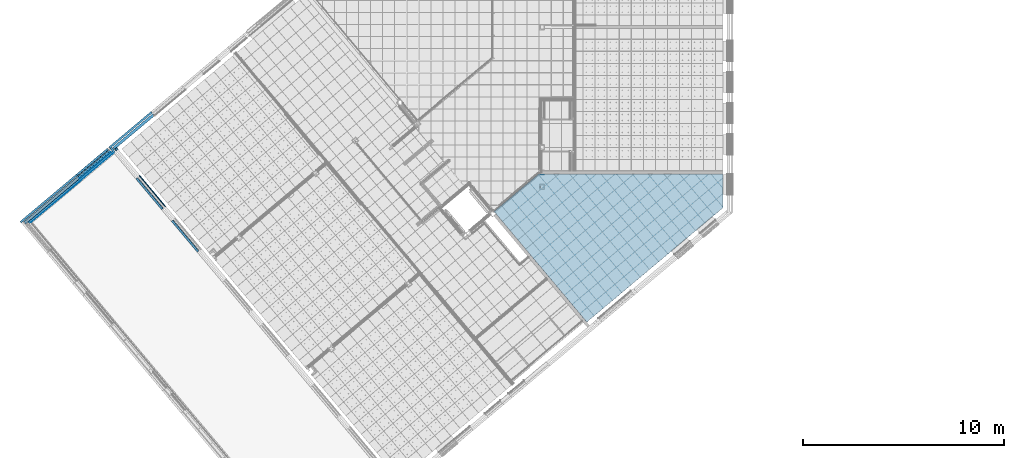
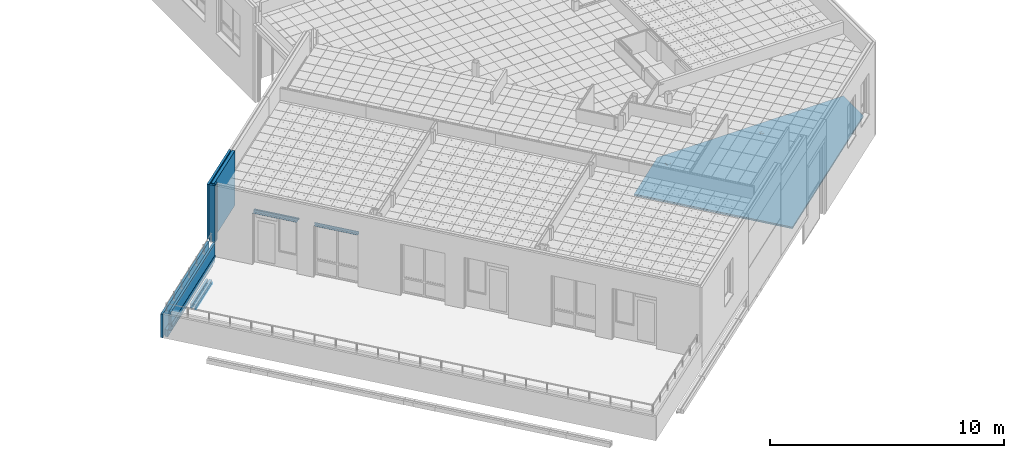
# One storey, part 54 of 321: 19 building element parts, 7 elements without a shape of their own.
"""IFC2X3 building model written with IfcOpenShell, lengths in millimetres."""

from ifc_helpers import new_model, entity, si_unit, converted_unit, derived_unit, money_unit, direction, frame, origin_with_axes, place, context, subcontext, project, spatial, faceted_brep, material, type_object, element, aggregate, save


model = new_model("IFC2X3")

# Units and contexts
model_context = context("Model", 3, precision=0.01, world=origin_with_axes(), true_north=direction((0.0, 1.0)))
plan_context = context("Plan", 3, precision=0.01, world=origin_with_axes(), true_north=direction((0.0, 1.0)))
body_context = subcontext(model_context, "Body", "Model", "MODEL_VIEW")
ifc_project = project(units=[si_unit("LENGTHUNIT", "METRE", prefix="MILLI"), si_unit("AREAUNIT", "SQUARE_METRE"), si_unit("VOLUMEUNIT", "CUBIC_METRE"), converted_unit("PLANEANGLEUNIT", "DEGREE", entity("IfcPlaneAngleMeasure", 0.0174532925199), si_unit("PLANEANGLEUNIT", "RADIAN"), dimensions=[0, 0, 0, 0, 0, 0, 0]), money_unit("EUR"), converted_unit("TIMEUNIT", "Year", entity("IfcTimeMeasure", 31556926.0), si_unit("TIMEUNIT", "SECOND"), dimensions=[0, 0, 1, 0, 0, 0, 0]), si_unit("MASSUNIT", "GRAM", prefix="KILO"), si_unit("THERMODYNAMICTEMPERATUREUNIT", "DEGREE_CELSIUS"), si_unit("LUMINOUSINTENSITYUNIT", "LUMEN"), si_unit("ENERGYUNIT", "JOULE", prefix="MEGA"), derived_unit("THERMALCONDUCTANCEUNIT", [(si_unit("POWERUNIT", "WATT"), 1), (si_unit("LENGTHUNIT", "METRE"), -1), (si_unit("THERMODYNAMICTEMPERATUREUNIT", "KELVIN"), -1)]), derived_unit("SPECIFICHEATCAPACITYUNIT", [(si_unit("ENERGYUNIT", "JOULE"), 1), (si_unit("MASSUNIT", "GRAM", prefix="KILO"), -1), (si_unit("THERMODYNAMICTEMPERATUREUNIT", "KELVIN"), -1)]), derived_unit("MASSDENSITYUNIT", [(si_unit("MASSUNIT", "GRAM", prefix="KILO"), 1), (si_unit("VOLUMEUNIT", "CUBIC_METRE"), -1)])], contexts=[model_context, plan_context])

# Site, building, storey
site_placement = place(None, origin_with_axes())
site = spatial("IfcSite", under=ifc_project, at=site_placement, Name="Fortuinstraat Woensdrecht", CompositionType="ELEMENT")
building_placement = place(site_placement, origin_with_axes())
building = spatial("IfcBuilding", under=site, at=building_placement, Name="IKC Fortuna", CompositionType="ELEMENT")
storey_placement = place(building_placement, frame((0.0, 0.0, 4000.0), z_axis=(0.0, 0.0, 1.0), x_axis=(1.0, 0.0, 0.0)))
storey = spatial("IfcBuildingStorey", under=building, at=storey_placement, Name="01 eerste verdieping", CompositionType="ELEMENT", Elevation=4000.0)

# Wall, building element parts
wall_type = type_object("IfcWallType", Name="21 MW hoofd 280", PredefinedType="NOTDEFINED")
wall_1_placement = place(storey_placement, frame((4029.43369291, 3746.61036659, 2447.5), z_axis=(0.0, 0.0, 1.0), x_axis=(0.766044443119, 0.642787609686, 0.0)))
wall_1 = element("IfcWall", 1, at=wall_1_placement, inside=storey, type_object=wall_type, Name="21_Wand_Vezel Cement Plaat")
ifc_material_1 = material(Name="Steen - Baksteen Hoofd")
building_element_part_1_placement = place(wall_1_placement, origin_with_axes())
building_element_part_1 = element("IfcBuildingElementPart", 2, at=building_element_part_1_placement, material=ifc_material_1, Name="Steen - Baksteen Hoofd", context=body_context, shape_type="Brep", body=[
    faceted_brep([(2745.38052311, -100.0, 2842.5), (2745.38052311, 0.0, 2842.5), (0.0, 0.0, 2842.5), (0.0, -100.0, 2842.5), (2745.38052311, -100.0, 0.0), (2745.38052311, 0.0, 0.0), (0.0, 0.0, 0.0), (0.0, -100.0, 0.0)], [[[0, 1, 2, 3]], [[0, 4, 5, 1]], [[1, 5, 6, 2]], [[3, 2, 6, 7]], [[4, 0, 3, 7]], [[5, 4, 7, 6]]]),
])
ifc_material_2 = material(Name="ALG - ISOLATIE")
building_element_part_2_placement = place(wall_1_placement, origin_with_axes())
building_element_part_2 = element("IfcBuildingElementPart", 3, at=building_element_part_2_placement, material=ifc_material_2, Name="ALG - ISOLATIE", context=body_context, shape_type="Brep", body=[
    faceted_brep([(2745.38052311, -280.0, 2842.5), (2745.38052311, -140.0, 2842.5), (140.0, -140.0, 2842.5), (140.0, -280.0, 2842.5), (2745.38052311, -280.0, 0.0), (2745.38052311, -140.0, 0.0), (140.0, -140.0, 0.0), (140.0, -280.0, 0.0)], [[[0, 1, 2, 3]], [[0, 4, 5, 1]], [[1, 5, 6, 2]], [[3, 2, 6, 7]], [[4, 0, 3, 7]], [[5, 4, 7, 6]]]),
])
aggregate(wall_1, [building_element_part_1, building_element_part_2])

wall_2_placement = place(storey_placement, frame((4029.43369291, 3746.61036659, 2329.99999925), z_axis=(0.0, 0.0, 1.0), x_axis=(0.642787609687, -0.766044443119, 0.0)))
wall_2 = element("IfcWall", 4, at=wall_2_placement, inside=storey, type_object=wall_type, Name="21_Wand_Vezel Cement Plaat")
building_element_part_3_placement = place(wall_2_placement, origin_with_axes())
building_element_part_3 = element("IfcBuildingElementPart", 5, at=building_element_part_3_placement, material=ifc_material_2, Name="ALG - ISOLATIE", context=body_context, shape_type="Brep", body=[
    faceted_brep([(280.0, 280.0, 0.0), (280.0, 280.0, 2960.00000075), (380.000004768, 280.0, 2960.00000075), (380.000004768, 280.0, 0.0), (280.0, 140.0, 0.0), (280.0, 140.0, 2960.00000075), (380.000004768, 140.0, 2960.00000075), (380.000004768, 140.0, 0.0)], [[[0, 1, 2, 3]], [[1, 0, 4, 5]], [[1, 5, 6, 2]], [[6, 7, 3, 2]], [[4, 0, 3, 7]], [[4, 7, 6, 5]]]),
])
building_element_part_4_placement = place(wall_2_placement, origin_with_axes())
building_element_part_4 = element("IfcBuildingElementPart", 6, at=building_element_part_4_placement, material=ifc_material_1, Name="Steen - Baksteen Hoofd", context=body_context, shape_type="Brep", body=[
    faceted_brep([(100.0, 100.000001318, 0.0), (100.0, 100.0, 2960.00000075), (380.000004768, 100.0, 2960.00000075), (380.000004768, 100.0, 0.0), (100.0, 0.0, 0.0), (100.0, 0.0, 117.500000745), (100.0, 0.0, 2960.00000075), (380.000004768, 0.0, 2960.00000075), (380.000004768, 0.0, 0.0)], [[[0, 1, 2, 3]], [[1, 0, 4, 5, 6]], [[1, 6, 7, 2]], [[7, 8, 3, 2]], [[4, 0, 3, 8]], [[5, 4, 8, 7, 6]]]),
])
aggregate(wall_2, [building_element_part_3, building_element_part_4])

# Covering, building element parts
covering_type_1 = type_object("IfcCoveringType", Name="41 Latei MW rollaag zw 280 x 227", PredefinedType="NOTDEFINED")
covering_1_placement = place(storey_placement, frame((2499.53142709, 2280.1129191, 237.5), z_axis=(0.0, 0.0, 1.0), x_axis=(0.766044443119, 0.642787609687, 0.0)))
covering_1 = element("IfcCovering", 7, at=covering_1_placement, inside=storey, type_object=covering_type_1, Name="41_Afwerking_Latei + rollaag", PredefinedType="NOTDEFINED")
ifc_material_3 = material(Name="Metaal - Staal C")
building_element_part_5_placement = place(covering_1_placement, origin_with_axes())
building_element_part_5 = element("IfcBuildingElementPart", 8, at=building_element_part_5_placement, material=ifc_material_3, Name="Metaal - Staal C", context=body_context, shape_type="Brep", body=[
    faceted_brep([(2010.0, 36.6213203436, 2.5), (2010.0, 32.0, 2.5), (2010.0, 32.0, 0.0), (2010.0, 33.1715728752, -2.82842712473), (2010.0, 36.0, -4.0), (2010.0, 115.215535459, -4.0), (2010.0, 135.215535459, -8.0), (2010.0, 136.0, -4.07767729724), (2010.0, 115.609685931, 0.0), (2010.0, 40.0, 0.0), (2010.0, 37.1715728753, 1.17157287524), (0.0, 32.0, 2.5), (0.0, 36.6213203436, 2.5), (0.0, 32.0, 0.0), (0.0, 33.1715728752, -2.82842712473), (0.0, 36.0, -4.0), (0.0, 115.215535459, -4.0), (0.0, 135.215535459, -8.0), (0.0, 136.0, -4.07767729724), (0.0, 115.609685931, 0.0), (0.0, 40.0, 0.0), (0.0, 37.1715728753, 1.17157287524)], [[[0, 1, 2, 3, 4, 5, 6, 7, 8, 9, 10]], [[11, 1, 0, 12]], [[1, 11, 13, 2]], [[14, 3, 2, 13]], [[15, 4, 3, 14]], [[16, 5, 4, 15]], [[17, 6, 5, 16]], [[18, 7, 6, 17]], [[19, 8, 7, 18]], [[20, 9, 8, 19]], [[21, 10, 9, 20]], [[12, 0, 10, 21]], [[11, 12, 21, 20, 19, 18, 17, 16, 15, 14, 13]]]),
    faceted_brep([(2010.0, 27.4409013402, 109.55909866), (2010.0, 27.4409013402, 115.160983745), (2010.0, 20.8284271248, 121.828427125), (2010.0, 18.0000000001, 119.0), (0.0, 27.4409013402, 115.160983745), (0.0, 27.4409013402, 109.55909866), (0.0, 20.8284271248, 121.828427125), (0.0, 18.0000000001, 119.0)], [[[0, 1, 2, 3]], [[4, 1, 0, 5]], [[1, 4, 6, 2]], [[7, 3, 2, 6]], [[5, 0, 3, 7]], [[4, 5, 7, 6]]]),
])
ifc_material_4 = material(Name="Steen - Baksteen Accent Rollaag")
building_element_part_6_placement = place(covering_1_placement, origin_with_axes())
building_element_part_6 = element("IfcBuildingElementPart", 9, at=building_element_part_6_placement, material=ifc_material_4, Name="Steen - Baksteen Accent Rollaag", context=body_context, shape_type="Brep", body=[
    faceted_brep([(0.0, 40.0, 18.3217893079), (2010.0, 40.0, 18.3217893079), (2010.0, 40.0, 210.0), (0.0, 40.0, 210.0), (2010.0, 40.955619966, 16.0147186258), (0.0, 40.9556199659, 16.0147186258), (2010.0, 127.44090134, 2.49999999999), (2010.0, 40.0, 2.5), (2010.0, 40.0, 0.0), (2010.0, 115.609685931, 0.0), (2010.0, 140.0, 0.0), (2010.0, 140.0, 210.0), (2010.0, 49.4409013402, 12.5), (2010.0, 121.44090134, 12.5), (2010.0, 125.683542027, 10.7426406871), (2010.0, 127.44090134, 6.49999999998), (0.0, 140.0, 210.0), (0.0, 140.0, 0.0), (0.0, 115.609685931, 0.0), (0.0, 40.0, 0.0), (0.0, 40.0, 2.5), (0.0, 127.44090134, 2.49999999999), (0.0, 127.44090134, 6.49999999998), (0.0, 125.683542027, 10.7426406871), (0.0, 121.44090134, 12.5), (0.0, 49.4409013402, 12.5)], [[[0, 1, 2, 3]], [[4, 1, 0, 5]], [[6, 7, 8, 9, 10, 11, 2, 1, 4, 12, 13, 14, 15]], [[3, 2, 11, 16]], [[5, 0, 3, 16, 17, 18, 19, 20, 21, 22, 23, 24, 25]], [[12, 4, 5, 25]], [[20, 7, 6, 21]], [[7, 20, 19, 8]], [[18, 9, 8, 19]], [[17, 10, 9, 18]], [[16, 11, 10, 17]], [[13, 12, 25, 24]], [[14, 13, 24, 23]], [[15, 14, 23, 22]], [[6, 15, 22, 21]]]),
])
building_element_part_7_placement = place(covering_1_placement, origin_with_axes())
building_element_part_7 = element("IfcBuildingElementPart", 10, at=building_element_part_7_placement, material=ifc_material_2, Name="ALG - ISOLATIE", context=body_context, shape_type="Brep", body=[
    faceted_brep([(0.0, -140.0, 53.0), (2010.0, -140.0, 53.0), (2010.0, -140.0, 210.0), (0.0, -140.0, 210.0), (0.0, -83.9999988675, 53.0000013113), (2010.0, -83.9999988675, 53.0000013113), (2010.0, 0.0, 53.0), (2010.0, 0.0, 210.0), (0.0, 0.0, 210.0), (0.0, 0.0, 53.0)], [[[0, 1, 2, 3]], [[4, 5, 1, 0]], [[2, 1, 5, 6, 7]], [[3, 2, 7, 8]], [[4, 0, 3, 8, 9]], [[9, 6, 5, 4]], [[8, 7, 6, 9]]]),
])
ifc_material_5 = material(Name="Hout AFW")
building_element_part_8_placement = place(covering_1_placement, origin_with_axes())
building_element_part_8 = element("IfcBuildingElementPart", 11, at=building_element_part_8_placement, material=ifc_material_5, Name="Hout AFW", context=body_context, shape_type="Brep", body=[
    faceted_brep([(0.0, -127.999998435, 53.0000013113), (2010.0, -127.999998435, 53.0000013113), (2010.0, -83.9999988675, 53.0000013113), (0.0, -83.9999988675, 53.0000013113), (0.0, -127.999998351, -1.28576260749e-07), (2010.0, -127.999998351, -1.28576260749e-07), (2010.0, -127.999998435, -17.0), (2010.0, -83.9999988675, -17.0), (0.0, -83.9999988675, -17.0), (0.0, -127.999998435, -17.0)], [[[0, 1, 2, 3]], [[4, 5, 1, 0]], [[2, 1, 5, 6, 7]], [[3, 2, 7, 8]], [[4, 0, 3, 8, 9]], [[9, 6, 5, 4]], [[8, 7, 6, 9]]]),
])
ifc_material_6 = material(Name="Isolatie - PUR gespoten")
building_element_part_9_placement = place(covering_1_placement, origin_with_axes())
building_element_part_9 = element("IfcBuildingElementPart", 12, at=building_element_part_9_placement, material=ifc_material_6, Name="Isolatie - PUR gespoten", context=body_context, shape_type="Brep", body=[
    faceted_brep([(0.0, -139.999999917, 53.0000002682), (2010.0, -139.999999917, 53.0000002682), (2010.0, -127.999998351, 53.0000013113), (0.0, -127.999998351, 53.0000013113), (0.0, -139.999999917, -1.28576260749e-07), (2010.0, -139.999999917, -1.28576260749e-07), (2010.0, -127.999998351, -1.28576260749e-07), (0.0, -127.999998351, -1.28576260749e-07)], [[[0, 1, 2, 3]], [[4, 5, 1, 0]], [[2, 1, 5, 6]], [[3, 2, 6, 7]], [[4, 0, 3, 7]], [[7, 6, 5, 4]]]),
])
aggregate(covering_1, [building_element_part_5, building_element_part_6, building_element_part_7, building_element_part_8, building_element_part_9])

covering_type_2 = type_object("IfcCoveringType", Name="43 Vloerafwerking 90", PredefinedType="FLOORING")
covering_2_placement = place(storey_placement, frame((25448.8419239, 2407.43245324, 0.0), z_axis=(0.0, 0.0, 1.0), x_axis=(1.0, 0.0, 0.0)))
covering_2 = element("IfcCovering", 13, at=covering_2_placement, inside=storey, type_object=covering_type_2, Name="43_Vloerafwerking_Vloerafwerking", PredefinedType="FLOORING")
ifc_material_7 = material(Name="Cement")
building_element_part_10_placement = place(covering_2_placement, origin_with_axes())
building_element_part_10 = element("IfcBuildingElementPart", 14, at=building_element_part_10_placement, material=ifc_material_7, Name="Cement", context=body_context, shape_type="Brep", body=[
    faceted_brep([(4831.5930526, -588.135824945, -70.0), (4833.00726617, -588.721611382, -70.0), (4833.5930526, -590.135824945, -70.0), (4833.5930526, -720.135824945, -70.0), (4833.00726616, -721.550038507, -70.0), (4831.5930526, -722.135824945, -70.0), (4701.5930526, -722.135824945, -70.0), (4700.17883904, -721.550038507, -70.0), (4699.5930526, -720.135824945, -70.0), (4699.5930526, -590.135824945, -70.0), (4700.17883904, -588.721611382, -70.0), (4701.5930526, -588.135824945, -70.0), (4831.5930526, -588.135824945, 0.0), (4833.00726617, -588.721611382, 0.0), (4833.5930526, -590.135824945, 0.0), (4833.5930526, -720.135824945, 0.0), (4833.00726616, -721.550038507, 0.0), (4831.5930526, -722.135824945, 0.0), (4701.5930526, -722.135824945, 0.0), (4700.17883904, -721.550038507, 0.0), (4699.5930526, -720.135824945, 0.0), (4699.5930526, -590.135824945, 0.0), (4700.17883904, -588.721611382, 0.0), (4701.5930526, -588.135824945, 0.0)], [[[0, 1, 2, 3, 4, 5, 6, 7, 8, 9, 10, 11]], [[12, 13, 1, 0]], [[13, 14, 2, 1]], [[14, 15, 3, 2]], [[15, 16, 4, 3]], [[16, 17, 5, 4]], [[17, 18, 6, 5]], [[18, 19, 7, 6]], [[19, 20, 8, 7]], [[20, 21, 9, 8]], [[21, 22, 10, 9]], [[22, 23, 11, 10]], [[23, 12, 0, 11]], [[16, 15, 14, 13, 12, 23, 22, 21, 20, 19, 18, 17]]]),
    faceted_brep([(271.593052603, -0.482173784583, -70.0), (9170.58513315, -0.482173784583, -70.0), (9170.58513315, -1703.89781269, -70.0), (2393.20947264, -7390.79125922, -70.0), (-2234.86130751, -1875.27120575, -70.0), (0.0, 0.0, -70.0), (49.1008584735, 0.0, -70.0), (49.1008839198, -0.48739445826, -70.0), (4838.66412041, -727.206892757, -70.0), (4841.5930526, -720.135824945, -70.0), (4841.5930526, -590.135824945, -70.0), (4838.66412041, -583.064757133, -70.0), (4831.5930526, -580.135824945, -70.0), (4701.5930526, -580.135824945, -70.0), (4694.52198479, -583.064757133, -70.0), (4691.5930526, -590.135824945, -70.0), (4691.5930526, -720.135824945, -70.0), (4694.52198479, -727.206892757, -70.0), (4701.5930526, -730.135824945, -70.0), (4831.5930526, -730.135824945, -70.0), (260.593052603, -765.135824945, -70.0), (271.593052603, -765.135824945, -70.0), (271.593052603, -545.135824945, -70.0), (260.593052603, -545.135824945, -70.0), (260.593052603, -633.635824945, -70.0), (258.181509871, -642.635824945, -70.0), (251.593052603, -649.224282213, -70.0), (242.593052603, -651.635824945, -70.0), (90.5930526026, -651.635824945, -70.0), (81.5930526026, -649.224282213, -70.0), (75.0045953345, -642.635824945, -70.0), (72.5930526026, -633.635824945, -70.0), (72.5930526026, -545.135824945, -70.0), (61.5930526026, -545.135824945, -70.0), (61.5930526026, -765.135824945, -70.0), (72.5930526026, -765.135824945, -70.0), (72.5930526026, -676.635824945, -70.0), (75.0045953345, -667.635824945, -70.0), (81.5930526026, -661.047367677, -70.0), (90.5930526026, -658.635824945, -70.0), (242.593052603, -658.635824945, -70.0), (251.593052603, -661.047367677, -70.0), (258.181509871, -667.635824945, -70.0), (260.593052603, -676.635824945, -70.0), (271.593052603, -0.482173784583, 0.0), (9170.58513315, -0.482173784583, 0.0), (9170.58513315, -1703.89781269, 0.0), (2393.20947264, -7390.79125922, 0.0), (-2234.86130751, -1875.27120575, 0.0), (0.0, 0.0, 0.0), (49.1008584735, 0.0, 0.0), (49.1008839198, -0.48739445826, 0.0), (4838.66412041, -727.206892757, 0.0), (4841.5930526, -720.135824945, 0.0), (4841.5930526, -590.135824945, 0.0), (4838.66412041, -583.064757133, 0.0), (4831.5930526, -580.135824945, 0.0), (4701.5930526, -580.135824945, 0.0), (4694.52198479, -583.064757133, 0.0), (4691.5930526, -590.135824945, 0.0), (4691.5930526, -720.135824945, 0.0), (4694.52198479, -727.206892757, 0.0), (4701.5930526, -730.135824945, 0.0), (4831.5930526, -730.135824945, 0.0), (260.593052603, -765.135824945, 0.0), (271.593052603, -765.135824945, 0.0), (271.593052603, -545.135824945, 0.0), (260.593052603, -545.135824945, 0.0), (260.593052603, -633.635824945, 0.0), (258.181509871, -642.635824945, 0.0), (251.593052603, -649.224282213, 0.0), (242.593052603, -651.635824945, 0.0), (90.5930526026, -651.635824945, 0.0), (81.5930526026, -649.224282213, 0.0), (75.0045953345, -642.635824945, 0.0), (72.5930526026, -633.635824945, 0.0), (72.5930526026, -545.135824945, 0.0), (61.5930526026, -545.135824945, 0.0), (61.5930526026, -765.135824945, 0.0), (72.5930526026, -765.135824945, 0.0), (72.5930526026, -676.635824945, 0.0), (75.0045953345, -667.635824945, 0.0), (81.5930526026, -661.047367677, 0.0), (90.5930526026, -658.635824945, 0.0), (242.593052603, -658.635824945, 0.0), (251.593052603, -661.047367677, 0.0), (258.181509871, -667.635824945, 0.0), (260.593052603, -676.635824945, 0.0)], [[[0, 1, 2, 3, 4, 5, 6, 7], [8, 9, 10, 11, 12, 13, 14, 15, 16, 17, 18, 19], [20, 21, 22, 23, 24, 25, 26, 27, 28, 29, 30, 31, 32, 33, 34, 35, 36, 37, 38, 39, 40, 41, 42, 43]], [[0, 44, 45, 1]], [[2, 1, 45, 46]], [[3, 2, 46, 47]], [[4, 3, 47, 48]], [[5, 4, 48, 49]], [[5, 49, 50, 6]], [[51, 7, 6, 50]], [[51, 44, 0, 7]], [[52, 53, 9, 8]], [[53, 54, 10, 9]], [[54, 55, 11, 10]], [[55, 56, 12, 11]], [[56, 57, 13, 12]], [[57, 58, 14, 13]], [[58, 59, 15, 14]], [[59, 60, 16, 15]], [[60, 61, 17, 16]], [[61, 62, 18, 17]], [[62, 63, 19, 18]], [[63, 52, 8, 19]], [[64, 65, 21, 20]], [[65, 66, 22, 21]], [[66, 67, 23, 22]], [[67, 68, 24, 23]], [[68, 69, 25, 24]], [[69, 70, 26, 25]], [[70, 71, 27, 26]], [[71, 72, 28, 27]], [[72, 73, 29, 28]], [[73, 74, 30, 29]], [[74, 75, 31, 30]], [[75, 76, 32, 31]], [[76, 77, 33, 32]], [[77, 78, 34, 33]], [[78, 79, 35, 34]], [[79, 80, 36, 35]], [[80, 81, 37, 36]], [[81, 82, 38, 37]], [[82, 83, 39, 38]], [[83, 84, 40, 39]], [[84, 85, 41, 40]], [[85, 86, 42, 41]], [[86, 87, 43, 42]], [[87, 64, 20, 43]], [[45, 44, 51, 50, 49, 48, 47, 46], [56, 55, 54, 53, 52, 63, 62, 61, 60, 59, 58, 57], [68, 67, 66, 65, 64, 87, 86, 85, 84, 83, 82, 81, 80, 79, 78, 77, 76, 75, 74, 73, 72, 71, 70, 69]]]),
])
ifc_material_8 = material(Name="Isolatie - XPS zwevende dekvloer")
building_element_part_11_placement = place(covering_2_placement, origin_with_axes())
building_element_part_11 = element("IfcBuildingElementPart", 15, at=building_element_part_11_placement, material=ifc_material_8, Name="Isolatie - XPS zwevende dekvloer", context=body_context, shape_type="Brep", body=[
    faceted_brep([(4831.5930526, -588.135824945, -90.0), (4833.00726617, -588.721611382, -90.0), (4833.5930526, -590.135824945, -90.0), (4833.5930526, -720.135824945, -90.0), (4833.00726616, -721.550038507, -90.0), (4831.5930526, -722.135824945, -90.0), (4701.5930526, -722.135824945, -90.0), (4700.17883904, -721.550038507, -90.0), (4699.5930526, -720.135824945, -90.0), (4699.5930526, -590.135824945, -90.0), (4700.17883904, -588.721611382, -90.0), (4701.5930526, -588.135824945, -90.0), (4831.5930526, -588.135824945, -70.0), (4833.00726617, -588.721611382, -70.0), (4833.5930526, -590.135824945, -70.0), (4833.5930526, -720.135824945, -70.0), (4833.00726616, -721.550038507, -70.0), (4831.5930526, -722.135824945, -70.0), (4701.5930526, -722.135824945, -70.0), (4700.17883904, -721.550038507, -70.0), (4699.5930526, -720.135824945, -70.0), (4699.5930526, -590.135824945, -70.0), (4700.17883904, -588.721611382, -70.0), (4701.5930526, -588.135824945, -70.0)], [[[0, 1, 2, 3, 4, 5, 6, 7, 8, 9, 10, 11]], [[12, 13, 1, 0]], [[13, 14, 2, 1]], [[14, 15, 3, 2]], [[15, 16, 4, 3]], [[16, 17, 5, 4]], [[17, 18, 6, 5]], [[18, 19, 7, 6]], [[19, 20, 8, 7]], [[20, 21, 9, 8]], [[21, 22, 10, 9]], [[22, 23, 11, 10]], [[23, 12, 0, 11]], [[16, 15, 14, 13, 12, 23, 22, 21, 20, 19, 18, 17]]]),
    faceted_brep([(271.593052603, -0.482173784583, -90.0), (9170.58513315, -0.482173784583, -90.0), (9170.58513315, -1703.89781269, -90.0), (2393.20947264, -7390.79125922, -90.0), (-2234.86130751, -1875.27120575, -90.0), (0.0, 0.0, -90.0), (49.1008584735, 0.0, -90.0), (49.1008839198, -0.48739445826, -90.0), (4838.66412041, -727.206892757, -90.0), (4841.5930526, -720.135824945, -90.0), (4841.5930526, -590.135824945, -90.0), (4838.66412041, -583.064757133, -90.0), (4831.5930526, -580.135824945, -90.0), (4701.5930526, -580.135824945, -90.0), (4694.52198479, -583.064757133, -90.0), (4691.5930526, -590.135824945, -90.0), (4691.5930526, -720.135824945, -90.0), (4694.52198479, -727.206892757, -90.0), (4701.5930526, -730.135824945, -90.0), (4831.5930526, -730.135824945, -90.0), (260.593052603, -765.135824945, -90.0), (271.593052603, -765.135824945, -90.0), (271.593052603, -545.135824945, -90.0), (260.593052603, -545.135824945, -90.0), (260.593052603, -633.635824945, -90.0), (258.181509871, -642.635824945, -90.0), (251.593052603, -649.224282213, -90.0), (242.593052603, -651.635824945, -90.0), (90.5930526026, -651.635824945, -90.0), (81.5930526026, -649.224282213, -90.0), (75.0045953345, -642.635824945, -90.0), (72.5930526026, -633.635824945, -90.0), (72.5930526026, -545.135824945, -90.0), (61.5930526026, -545.135824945, -90.0), (61.5930526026, -765.135824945, -90.0), (72.5930526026, -765.135824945, -90.0), (72.5930526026, -676.635824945, -90.0), (75.0045953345, -667.635824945, -90.0), (81.5930526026, -661.047367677, -90.0), (90.5930526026, -658.635824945, -90.0), (242.593052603, -658.635824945, -90.0), (251.593052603, -661.047367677, -90.0), (258.181509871, -667.635824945, -90.0), (260.593052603, -676.635824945, -90.0), (271.593052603, -0.482173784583, -70.0), (9170.58513315, -0.482173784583, -70.0), (9170.58513315, -1703.89781269, -70.0), (2393.20947264, -7390.79125922, -70.0), (-2234.86130751, -1875.27120575, -70.0), (0.0, 0.0, -70.0), (49.1008584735, 0.0, -70.0), (49.1008839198, -0.48739445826, -70.0), (4838.66412041, -727.206892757, -70.0), (4841.5930526, -720.135824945, -70.0), (4841.5930526, -590.135824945, -70.0), (4838.66412041, -583.064757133, -70.0), (4831.5930526, -580.135824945, -70.0), (4701.5930526, -580.135824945, -70.0), (4694.52198479, -583.064757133, -70.0), (4691.5930526, -590.135824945, -70.0), (4691.5930526, -720.135824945, -70.0), (4694.52198479, -727.206892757, -70.0), (4701.5930526, -730.135824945, -70.0), (4831.5930526, -730.135824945, -70.0), (260.593052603, -765.135824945, -70.0), (271.593052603, -765.135824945, -70.0), (271.593052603, -545.135824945, -70.0), (260.593052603, -545.135824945, -70.0), (260.593052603, -633.635824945, -70.0), (258.181509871, -642.635824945, -70.0), (251.593052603, -649.224282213, -70.0), (242.593052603, -651.635824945, -70.0), (90.5930526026, -651.635824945, -70.0), (81.5930526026, -649.224282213, -70.0), (75.0045953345, -642.635824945, -70.0), (72.5930526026, -633.635824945, -70.0), (72.5930526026, -545.135824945, -70.0), (61.5930526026, -545.135824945, -70.0), (61.5930526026, -765.135824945, -70.0), (72.5930526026, -765.135824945, -70.0), (72.5930526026, -676.635824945, -70.0), (75.0045953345, -667.635824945, -70.0), (81.5930526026, -661.047367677, -70.0), (90.5930526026, -658.635824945, -70.0), (242.593052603, -658.635824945, -70.0), (251.593052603, -661.047367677, -70.0), (258.181509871, -667.635824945, -70.0), (260.593052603, -676.635824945, -70.0)], [[[0, 1, 2, 3, 4, 5, 6, 7], [8, 9, 10, 11, 12, 13, 14, 15, 16, 17, 18, 19], [20, 21, 22, 23, 24, 25, 26, 27, 28, 29, 30, 31, 32, 33, 34, 35, 36, 37, 38, 39, 40, 41, 42, 43]], [[0, 44, 45, 1]], [[2, 1, 45, 46]], [[47, 3, 2, 46]], [[48, 4, 3, 47]], [[49, 5, 4, 48]], [[5, 49, 50, 6]], [[51, 7, 6, 50]], [[51, 44, 0, 7]], [[52, 53, 9, 8]], [[53, 54, 10, 9]], [[54, 55, 11, 10]], [[55, 56, 12, 11]], [[56, 57, 13, 12]], [[57, 58, 14, 13]], [[58, 59, 15, 14]], [[59, 60, 16, 15]], [[60, 61, 17, 16]], [[61, 62, 18, 17]], [[62, 63, 19, 18]], [[63, 52, 8, 19]], [[64, 65, 21, 20]], [[65, 66, 22, 21]], [[66, 67, 23, 22]], [[67, 68, 24, 23]], [[68, 69, 25, 24]], [[69, 70, 26, 25]], [[70, 71, 27, 26]], [[71, 72, 28, 27]], [[72, 73, 29, 28]], [[73, 74, 30, 29]], [[74, 75, 31, 30]], [[75, 76, 32, 31]], [[76, 77, 33, 32]], [[77, 78, 34, 33]], [[78, 79, 35, 34]], [[79, 80, 36, 35]], [[80, 81, 37, 36]], [[81, 82, 38, 37]], [[82, 83, 39, 38]], [[83, 84, 40, 39]], [[84, 85, 41, 40]], [[85, 86, 42, 41]], [[86, 87, 43, 42]], [[87, 64, 20, 43]], [[45, 44, 51, 50, 49, 48, 47, 46], [56, 55, 54, 53, 52, 63, 62, 61, 60, 59, 58, 57], [68, 67, 66, 65, 64, 87, 86, 85, 84, 83, 82, 81, 80, 79, 78, 77, 76, 75, 74, 73, 72, 71, 70, 69]]]),
])
aggregate(covering_2, [building_element_part_10, building_element_part_11])

covering_type_3 = type_object("IfcCoveringType", Name="21 Dakrand terras 386 x 1235", PredefinedType="CLADDING")
covering_3_placement = place(storey_placement, frame((4209.33761049, 3532.05363647, 1300.0), z_axis=(0.0, 0.0, 1.0), x_axis=(-0.766044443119, -0.642787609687, 0.0)))
covering_3 = element("IfcCovering", 16, at=covering_3_placement, inside=storey, type_object=covering_type_3, Name="21_Wandafwerking_Dakrand", PredefinedType="CLADDING")
ifc_material_9 = material(Name="Membraan - waterdicht")
building_element_part_12_placement = place(covering_3_placement, origin_with_axes())
building_element_part_12 = element("IfcBuildingElementPart", 17, at=building_element_part_12_placement, material=ifc_material_9, Name="Membraan - waterdicht", context=body_context, shape_type="Brep", body=[
    faceted_brep([(5394.9, 105.999998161, 189.999992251), (0.0, 105.999998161, 243.998991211), (0.0, 105.999998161, 399.999998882), (5394.89999776, 105.999998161, 399.999998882), (0.0, 100.000001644, 243.998991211), (5394.9, 100.000001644, 189.999992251), (0.0, 100.00000295, 399.999998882), (5394.89999776, 100.00000295, 399.999998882)], [[[0, 1, 2, 3]], [[4, 1, 0, 5]], [[1, 4, 6, 2]], [[2, 6, 7, 3]], [[5, 0, 3, 7]], [[4, 5, 7, 6]]]),
])
ifc_material_10 = material(Name="Steen - Cellenbeton")
building_element_part_13_placement = place(covering_3_placement, origin_with_axes())
building_element_part_13 = element("IfcBuildingElementPart", 18, at=building_element_part_13_placement, material=ifc_material_10, Name="Steen - Cellenbeton", context=body_context, shape_type="Brep", body=[
    faceted_brep([(0.0, 100.000002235, 399.999998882), (0.0, 0.0, 399.999998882), (5494.89999103, 0.0, 400.0000076), (5494.89999103, 100.000002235, 400.0000076), (0.0, 0.0, 60.0), (0.0, -2.60770516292e-07, 159.999999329), (0.0, 100.000002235, 60.0), (5494.90000944, -2.60760554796e-07, 159.999993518), (5494.90000944, 100.000002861, 159.999993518), (5494.90000026, 100.000002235, 59.9999995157), (5494.90000026, 0.0, 59.9999995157)], [[[0, 1, 2, 3]], [[4, 5, 1, 0, 6]], [[1, 5, 7, 2]], [[2, 7, 8, 3]], [[6, 0, 3, 8, 9]], [[5, 4, 10, 7]], [[4, 6, 9, 10]], [[10, 9, 8, 7]]]),
])
building_element_part_14_placement = place(covering_3_placement, origin_with_axes())
building_element_part_14 = element("IfcBuildingElementPart", 19, at=building_element_part_14_placement, material=ifc_material_1, Name="Steen - Baksteen Hoofd", context=body_context, shape_type="Brep", body=[
    faceted_brep([(5494.89999103, 0.0, 1035.0), (5494.89999103, 100.0, 1035.0), (0.0, 100.0, 1035.0), (0.0, 0.0, 1035.0), (5494.89999103, 100.0, 399.999998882), (5494.89999103, 0.0, 399.999998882), (0.0, 100.0, 400.0), (0.0, 0.0, 400.0)], [[[0, 1, 2, 3]], [[4, 1, 0, 5]], [[1, 4, 6, 2]], [[2, 6, 7, 3]], [[5, 0, 3, 7]], [[4, 5, 7, 6]]]),
])
building_element_part_15_placement = place(covering_3_placement, origin_with_axes())
building_element_part_15 = element("IfcBuildingElementPart", 20, at=building_element_part_15_placement, material=ifc_material_2, Name="ALG - ISOLATIE", context=body_context, shape_type="Brep", body=[
    faceted_brep([(0.0, -2.60770516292e-07, 159.999999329), (0.0, -140.0, 159.999999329), (5634.90000423, -140.0, 159.999993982), (5634.90000423, -2.60764035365e-07, 159.999993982), (0.0, -2.60770516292e-07, 59.9999995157), (0.0, -2.60770516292e-07, -200.0), (0.0, -140.0, -200.0), (5634.90000385, -140.0, -200.0), (5634.90000385, -2.60770030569e-07, -200.0), (5634.90000423, -2.60761537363e-07, 60.0)], [[[0, 1, 2, 3]], [[4, 5, 6, 1, 0]], [[6, 7, 2, 1]], [[7, 8, 9, 3, 2]], [[4, 0, 3, 9]], [[5, 4, 9, 8]], [[6, 5, 8, 7]]]),
])
building_element_part_16_placement = place(covering_3_placement, origin_with_axes())
building_element_part_16 = element("IfcBuildingElementPart", 21, at=building_element_part_16_placement, material=ifc_material_1, Name="Steen - Baksteen Hoofd", context=body_context, shape_type="Brep", body=[
    faceted_brep([(0.0, -180.0, 1035.0), (0.0, -280.0, 1035.0), (5774.90000126, -280.0, 1035.0), (5774.90000126, -180.0, 1035.0), (0.0, -180.0, -200.0), (0.0, -280.0, -200.0), (5774.90000126, -280.0, -200.0), (5774.90000126, -180.0, -200.0)], [[[0, 1, 2, 3]], [[1, 0, 4, 5]], [[1, 5, 6, 2]], [[2, 6, 7, 3]], [[4, 0, 3, 7]], [[5, 4, 7, 6]]]),
])
aggregate(covering_3, [building_element_part_12, building_element_part_13, building_element_part_14, building_element_part_15, building_element_part_16])

covering_type_4 = type_object("IfcCoveringType", Name="41 Latei MW zw 269 x 142", PredefinedType="NOTDEFINED")
covering_4_placement = place(storey_placement, frame((5473.67815635, 2243.22817446, 4272.5), z_axis=(0.0, 0.0, 1.0), x_axis=(0.642787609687, -0.766044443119, 0.0)))
covering_4 = element("IfcCovering", 22, at=covering_4_placement, inside=storey, type_object=covering_type_4, Name="41_Afwerking_MW latei", PredefinedType="NOTDEFINED")
building_element_part_17_placement = place(covering_4_placement, origin_with_axes())
building_element_part_17 = element("IfcBuildingElementPart", 23, at=building_element_part_17_placement, material=ifc_material_5, Name="Hout AFW", context=body_context, shape_type="Brep", body=[
    faceted_brep([(0.0, 129.0, -17.0), (2010.0, 129.0, -17.0), (2010.0, 83.0, -17.0), (0.0, 83.0, -17.0), (0.0, 129.0, 53.0), (2010.0, 129.0, 53.0), (2010.0, 83.0, 53.0), (0.0, 83.0, 53.0)], [[[0, 1, 2, 3]], [[4, 5, 1, 0]], [[2, 1, 5, 6]], [[3, 2, 6, 7]], [[4, 0, 3, 7]], [[7, 6, 5, 4]]]),
])
ifc_material_11 = material(Name="Metaal - Staal AFW")
building_element_part_18_placement = place(covering_4_placement, origin_with_axes())
building_element_part_18 = element("IfcBuildingElementPart", 24, at=building_element_part_18_placement, material=ifc_material_11, Name="Metaal - Staal AFW", context=body_context, shape_type="Brep", body=[
    faceted_brep([(2010.0, -43.3863648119, -3.9999998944), (2010.0, -43.3863648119, 0.0), (2010.0, -115.609685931, 0.0), (2010.0, -136.000000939, -4.07767792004), (2010.0, -135.215535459, -8.0), (2010.0, -115.215535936, -3.99999886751), (0.0, -43.3863648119, 0.0), (0.0, -43.3863648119, -3.9999998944), (0.0, -115.609685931, 0.0), (0.0, -136.000000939, -4.07767792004), (0.0, -135.215535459, -8.0), (0.0, -115.215535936, -3.99999886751)], [[[0, 1, 2, 3, 4, 5]], [[6, 1, 0, 7]], [[1, 6, 8, 2]], [[9, 3, 2, 8]], [[10, 4, 3, 9]], [[11, 5, 4, 10]], [[7, 0, 5, 11]], [[6, 7, 11, 10, 9, 8]]]),
    faceted_brep([(0.0, -33.3863648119, 109.166095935), (2010.0, -33.386364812, 109.166095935), (2010.0, -20.8284271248, 121.828427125), (0.0, -20.8284271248, 121.828427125), (2010.0, -33.386364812, -2.917396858), (0.0, -33.3863648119, -2.917396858), (2010.0, -33.1715728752, -2.82842712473), (2010.0, -32.0, 0.0), (2010.0, -32.0, 105.0), (2010.0, -18.0000000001, 119.0), (0.0, -18.0000000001, 119.0), (0.0, -32.0, 105.0), (0.0, -32.0, 0.0), (0.0, -33.1715728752, -2.82842712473)], [[[0, 1, 2, 3]], [[4, 1, 0, 5]], [[1, 4, 6, 7, 8, 9, 2]], [[3, 2, 9, 10]], [[5, 0, 3, 10, 11, 12, 13]], [[4, 5, 13, 6]], [[12, 7, 6, 13]], [[11, 8, 7, 12]], [[10, 9, 8, 11]]]),
])
aggregate(covering_4, [building_element_part_17, building_element_part_18])

# Covering, building element part
covering_5_placement = place(storey_placement, frame((7254.19984843, 121.285051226, 4272.5), z_axis=(0.0, 0.0, 1.0), x_axis=(0.642787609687, -0.766044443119, 0.0)))
covering_5 = element("IfcCovering", 25, at=covering_5_placement, inside=storey, type_object=covering_type_4, Name="41_Afwerking_MW latei", PredefinedType="NOTDEFINED")
building_element_part_19_placement = place(covering_5_placement, origin_with_axes())
building_element_part_19 = element("IfcBuildingElementPart", 26, at=building_element_part_19_placement, material=ifc_material_11, Name="Metaal - Staal AFW", context=body_context, shape_type="Brep", body=[
    faceted_brep([(2010.0, -43.386364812, -3.9999998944), (2010.0, -43.386364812, 0.0), (2010.0, -115.609685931, 0.0), (2010.0, -136.000000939, -4.07767792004), (2010.0, -135.215535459, -8.0), (2010.0, -115.215535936, -3.99999886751), (0.0, -43.3863648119, 0.0), (0.0, -43.3863648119, -3.9999998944), (0.0, -115.609685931, 0.0), (0.0, -136.000000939, -4.07767792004), (0.0, -135.215535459, -8.0), (0.0, -115.215535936, -3.99999886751)], [[[0, 1, 2, 3, 4, 5]], [[6, 1, 0, 7]], [[1, 6, 8, 2]], [[9, 3, 2, 8]], [[10, 4, 3, 9]], [[11, 5, 4, 10]], [[7, 0, 5, 11]], [[6, 7, 11, 10, 9, 8]]]),
    faceted_brep([(0.0, -33.386364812, 109.166095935), (2010.0, -33.386364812, 109.166095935), (2010.0, -20.8284271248, 121.828427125), (0.0, -20.8284271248, 121.828427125), (2010.0, -33.386364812, -2.91739685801), (0.0, -33.386364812, -2.917396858), (2010.0, -33.1715728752, -2.82842712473), (2010.0, -32.0, 0.0), (2010.0, -32.0, 105.0), (2010.0, -18.0000000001, 119.0), (0.0, -18.0000000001, 119.0), (0.0, -32.0, 105.0), (0.0, -32.0, 0.0), (0.0, -33.1715728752, -2.82842712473)], [[[0, 1, 2, 3]], [[4, 1, 0, 5]], [[1, 4, 6, 7, 8, 9, 2]], [[3, 2, 9, 10]], [[5, 0, 3, 10, 11, 12, 13]], [[4, 5, 13, 6]], [[12, 7, 6, 13]], [[11, 8, 7, 12]], [[10, 9, 8, 11]]]),
])
aggregate(covering_5, [building_element_part_19])

save(model, "model.ifc")
